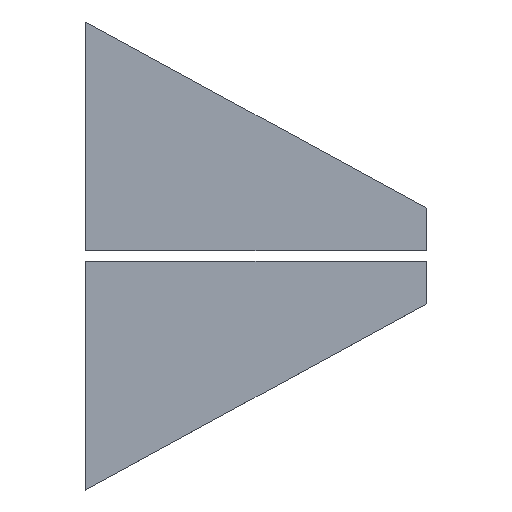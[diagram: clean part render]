
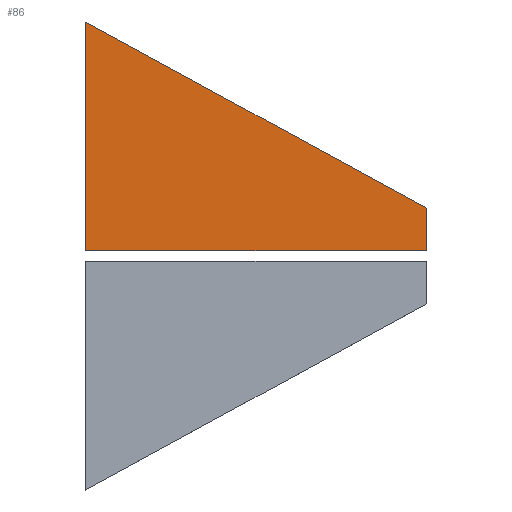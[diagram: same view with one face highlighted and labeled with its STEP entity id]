
A CAD part, top view. The second image highlights one B-rep face of the part: STEP entity #86.
In plain terms, the highlighted planar face has unit normal (0, 0, 1).
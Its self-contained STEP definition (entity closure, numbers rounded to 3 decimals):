
#86=ADVANCED_FACE('',(#190),#192,.T.);
#190=FACE_BOUND('',#191,.T.);
#191=EDGE_LOOP('',(#268,#269,#270,#271));
#192=PLANE('',#193);
#193=AXIS2_PLACEMENT_3D('',#194,#195,#196);
#194=CARTESIAN_POINT('',(0.,0.,0.8));
#195=DIRECTION('',(0.,0.,1.));
#196=DIRECTION('',(1.,0.,0.));
#268=ORIENTED_EDGE('',*,*,#314,.T.);
#269=ORIENTED_EDGE('',*,*,#315,.T.);
#270=ORIENTED_EDGE('',*,*,#316,.T.);
#271=ORIENTED_EDGE('',*,*,#309,.T.);
#309=EDGE_CURVE('',#335,#333,#336,.T.);
#314=EDGE_CURVE('',#333,#342,#344,.F.);
#315=EDGE_CURVE('',#342,#345,#346,.F.);
#316=EDGE_CURVE('',#345,#335,#347,.T.);
#333=VERTEX_POINT('',#373);
#335=VERTEX_POINT('',#377);
#336=LINE('',#378,#379);
#342=VERTEX_POINT('',#392);
#344=LINE('',#396,#397);
#345=VERTEX_POINT('',#399);
#346=LINE('',#400,#401);
#347=LINE('',#403,#404);
#373=CARTESIAN_POINT('',(-135.023,92.7,0.8));
#377=CARTESIAN_POINT('',(0.,19.,0.8));
#378=CARTESIAN_POINT('',(0.,19.,0.8));
#379=VECTOR('',#380,1.);
#380=DIRECTION('',(-0.878,0.479,0.));
#392=CARTESIAN_POINT('',(-135.023,2.,0.8));
#396=CARTESIAN_POINT('',(-135.023,2.,0.8));
#397=VECTOR('',#398,1.);
#398=DIRECTION('',(0.,1.,0.));
#399=CARTESIAN_POINT('',(0.,2.,0.8));
#400=CARTESIAN_POINT('',(0.,2.,0.8));
#401=VECTOR('',#402,1.);
#402=DIRECTION('',(-1.,0.,0.));
#403=CARTESIAN_POINT('',(0.,2.,0.8));
#404=VECTOR('',#405,1.);
#405=DIRECTION('',(0.,1.,0.));
